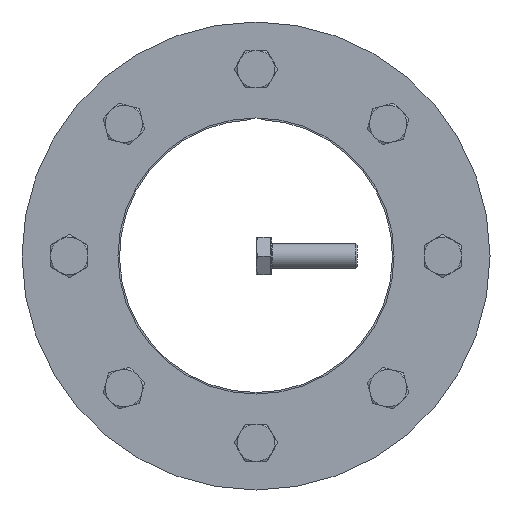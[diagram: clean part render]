
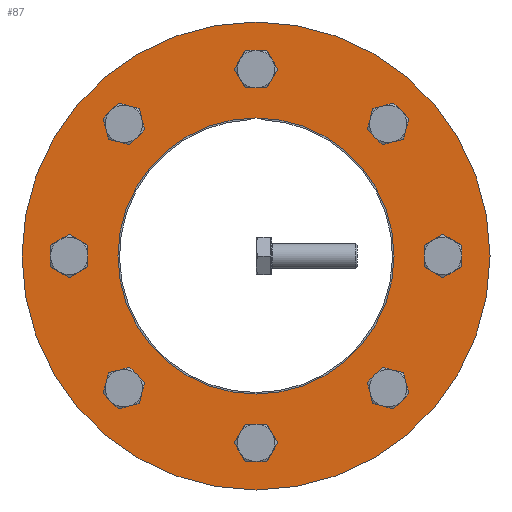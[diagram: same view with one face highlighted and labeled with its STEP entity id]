
A CAD part, front view. The second image highlights one B-rep face of the part: STEP entity #87.
In plain terms, the highlighted planar face has unit normal (0, -1, 0).
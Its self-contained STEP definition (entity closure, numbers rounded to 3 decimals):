
#87 = ADVANCED_FACE( '', ( #201, #202, #203, #204, #205, #206, #207, #208, #209, #210 ), #211, .F. );
#201 = FACE_BOUND( '', #406, .T. );
#202 = FACE_BOUND( '', #407, .T. );
#203 = FACE_BOUND( '', #408, .T. );
#204 = FACE_BOUND( '', #409, .T. );
#205 = FACE_BOUND( '', #410, .T. );
#206 = FACE_OUTER_BOUND( '', #411, .T. );
#207 = FACE_BOUND( '', #412, .T. );
#208 = FACE_BOUND( '', #413, .T. );
#209 = FACE_BOUND( '', #414, .T. );
#210 = FACE_BOUND( '', #415, .T. );
#211 = PLANE( '', #416 );
#406 = EDGE_LOOP( '', ( #643 ) );
#407 = EDGE_LOOP( '', ( #644 ) );
#408 = EDGE_LOOP( '', ( #645 ) );
#409 = EDGE_LOOP( '', ( #646 ) );
#410 = EDGE_LOOP( '', ( #647 ) );
#411 = EDGE_LOOP( '', ( #648 ) );
#412 = EDGE_LOOP( '', ( #649 ) );
#413 = EDGE_LOOP( '', ( #650 ) );
#414 = EDGE_LOOP( '', ( #651 ) );
#415 = EDGE_LOOP( '', ( #652 ) );
#416 = AXIS2_PLACEMENT_3D( '', #653, #654, #655 );
#643 = ORIENTED_EDGE( '', *, *, #1003, .T. );
#644 = ORIENTED_EDGE( '', *, *, #1004, .T. );
#645 = ORIENTED_EDGE( '', *, *, #1005, .T. );
#646 = ORIENTED_EDGE( '', *, *, #1006, .T. );
#647 = ORIENTED_EDGE( '', *, *, #1007, .F. );
#648 = ORIENTED_EDGE( '', *, *, #1008, .T. );
#649 = ORIENTED_EDGE( '', *, *, #1009, .T. );
#650 = ORIENTED_EDGE( '', *, *, #1010, .T. );
#651 = ORIENTED_EDGE( '', *, *, #1001, .T. );
#652 = ORIENTED_EDGE( '', *, *, #1011, .T. );
#653 = CARTESIAN_POINT( '', ( 0., -35.5, 150. ) );
#654 = DIRECTION( '', ( 0., 1., 0. ) );
#655 = DIRECTION( '', ( 0., 0., 1. ) );
#1001 = EDGE_CURVE( '', #1181, #1181, #1182, .T. );
#1003 = EDGE_CURVE( '', #1184, #1184, #1185, .T. );
#1004 = EDGE_CURVE( '', #1186, #1186, #1187, .T. );
#1005 = EDGE_CURVE( '', #1188, #1188, #1189, .T. );
#1006 = EDGE_CURVE( '', #1190, #1190, #1191, .T. );
#1007 = EDGE_CURVE( '', #1192, #1192, #1193, .T. );
#1008 = EDGE_CURVE( '', #1194, #1194, #1195, .T. );
#1009 = EDGE_CURVE( '', #1196, #1196, #1197, .T. );
#1010 = EDGE_CURVE( '', #1198, #1198, #1199, .T. );
#1011 = EDGE_CURVE( '', #1200, #1200, #1201, .T. );
#1181 = VERTEX_POINT( '', #1534 );
#1182 = CIRCLE( '', #1535, 8. );
#1184 = VERTEX_POINT( '', #1537 );
#1185 = CIRCLE( '', #1538, 8. );
#1186 = VERTEX_POINT( '', #1539 );
#1187 = CIRCLE( '', #1540, 8. );
#1188 = VERTEX_POINT( '', #1541 );
#1189 = CIRCLE( '', #1542, 8. );
#1190 = VERTEX_POINT( '', #1543 );
#1191 = CIRCLE( '', #1544, 8. );
#1192 = VERTEX_POINT( '', #1545 );
#1193 = CIRCLE( '', #1546, 88.5 );
#1194 = VERTEX_POINT( '', #1547 );
#1195 = CIRCLE( '', #1548, 150. );
#1196 = VERTEX_POINT( '', #1549 );
#1197 = CIRCLE( '', #1550, 8. );
#1198 = VERTEX_POINT( '', #1551 );
#1199 = CIRCLE( '', #1552, 8. );
#1200 = VERTEX_POINT( '', #1553 );
#1201 = CIRCLE( '', #1554, 8. );
#1534 = CARTESIAN_POINT( '', ( -90.333, -35.5, -79.019 ) );
#1535 = AXIS2_PLACEMENT_3D( '', #1797, #1798, #1799 );
#1537 = CARTESIAN_POINT( '', ( -119.75, -35.5, 8. ) );
#1538 = AXIS2_PLACEMENT_3D( '', #1800, #1801, #1802 );
#1539 = CARTESIAN_POINT( '', ( -8., -35.5, -119.75 ) );
#1540 = AXIS2_PLACEMENT_3D( '', #1803, #1804, #1805 );
#1541 = CARTESIAN_POINT( '', ( 119.75, -35.5, -8. ) );
#1542 = AXIS2_PLACEMENT_3D( '', #1806, #1807, #1808 );
#1543 = CARTESIAN_POINT( '', ( 8., -35.5, 119.75 ) );
#1544 = AXIS2_PLACEMENT_3D( '', #1809, #1810, #1811 );
#1545 = CARTESIAN_POINT( '', ( 0., -35.5, -88.5 ) );
#1546 = AXIS2_PLACEMENT_3D( '', #1812, #1813, #1814 );
#1547 = CARTESIAN_POINT( '', ( 0., -35.5, -150. ) );
#1548 = AXIS2_PLACEMENT_3D( '', #1815, #1816, #1817 );
#1549 = CARTESIAN_POINT( '', ( 90.333, -35.5, 79.019 ) );
#1550 = AXIS2_PLACEMENT_3D( '', #1818, #1819, #1820 );
#1551 = CARTESIAN_POINT( '', ( 79.019, -35.5, -90.333 ) );
#1552 = AXIS2_PLACEMENT_3D( '', #1821, #1822, #1823 );
#1553 = CARTESIAN_POINT( '', ( -79.019, -35.5, 90.333 ) );
#1554 = AXIS2_PLACEMENT_3D( '', #1824, #1825, #1826 );
#1797 = CARTESIAN_POINT( '', ( -84.676, -35.5, -84.676 ) );
#1798 = DIRECTION( '', ( 0., 1., 0. ) );
#1799 = DIRECTION( '', ( -0.707, 0., 0.707 ) );
#1800 = CARTESIAN_POINT( '', ( -119.75, -35.5, 0. ) );
#1801 = DIRECTION( '', ( 0., 1., 0. ) );
#1802 = DIRECTION( '', ( 0., 0., 1. ) );
#1803 = CARTESIAN_POINT( '', ( 0., -35.5, -119.75 ) );
#1804 = DIRECTION( '', ( 0., 1., 0. ) );
#1805 = DIRECTION( '', ( -1., 0., 0. ) );
#1806 = CARTESIAN_POINT( '', ( 119.75, -35.5, 0. ) );
#1807 = DIRECTION( '', ( 0., 1., 0. ) );
#1808 = DIRECTION( '', ( 0., 0., -1. ) );
#1809 = CARTESIAN_POINT( '', ( 0., -35.5, 119.75 ) );
#1810 = DIRECTION( '', ( 0., 1., 0. ) );
#1811 = DIRECTION( '', ( 1., 0., 0. ) );
#1812 = CARTESIAN_POINT( '', ( 0., -35.5, 0. ) );
#1813 = DIRECTION( '', ( 0., -1., 0. ) );
#1814 = DIRECTION( '', ( 0., 0., -1. ) );
#1815 = CARTESIAN_POINT( '', ( 0., -35.5, 0. ) );
#1816 = DIRECTION( '', ( 0., -1., 0. ) );
#1817 = DIRECTION( '', ( 0., 0., -1. ) );
#1818 = CARTESIAN_POINT( '', ( 84.676, -35.5, 84.676 ) );
#1819 = DIRECTION( '', ( 0., 1., 0. ) );
#1820 = DIRECTION( '', ( 0.707, 0., -0.707 ) );
#1821 = CARTESIAN_POINT( '', ( 84.676, -35.5, -84.676 ) );
#1822 = DIRECTION( '', ( 0., 1., 0. ) );
#1823 = DIRECTION( '', ( -0.707, 0., -0.707 ) );
#1824 = CARTESIAN_POINT( '', ( -84.676, -35.5, 84.676 ) );
#1825 = DIRECTION( '', ( 0., 1., 0. ) );
#1826 = DIRECTION( '', ( 0.707, 0., 0.707 ) );
